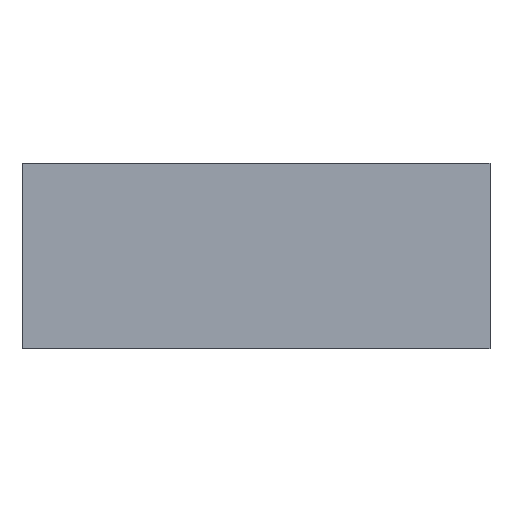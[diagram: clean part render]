
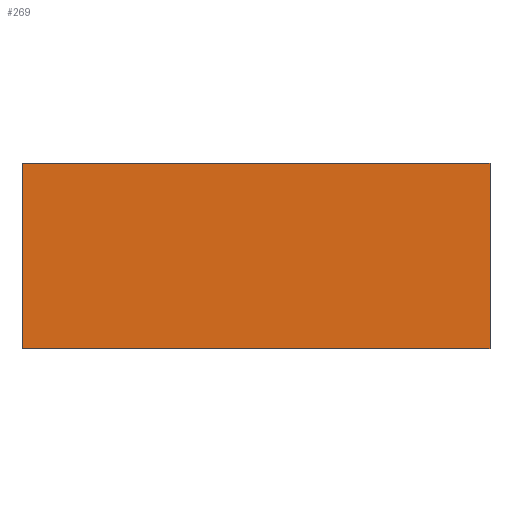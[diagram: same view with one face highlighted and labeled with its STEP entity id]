
A CAD part, front view. The second image highlights one B-rep face of the part: STEP entity #269.
In plain terms, the highlighted planar face has unit normal (0, -1, 0).
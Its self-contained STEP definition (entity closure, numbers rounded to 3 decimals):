
#34 = VECTOR ( 'NONE', #383, 1000. ) ;
#35 = LINE ( 'NONE', #382, #34 ) ;
#38 = VECTOR ( 'NONE', #379, 1000. ) ;
#43 = LINE ( 'NONE', #376, #38 ) ;
#121 = ORIENTED_EDGE ( 'NONE', *, *, #301, .T. ) ;
#122 = ORIENTED_EDGE ( 'NONE', *, *, #293, .F. ) ;
#123 = ORIENTED_EDGE ( 'NONE', *, *, #249, .F. ) ;
#132 = ORIENTED_EDGE ( 'NONE', *, *, #247, .T. ) ;
#139 = EDGE_LOOP ( 'NONE', ( #132, #123, #122, #121 ) ) ;
#158 = FACE_OUTER_BOUND ( 'NONE', #139, .T. ) ;
#190 = LINE ( 'NONE', #498, #191 ) ;
#191 = VECTOR ( 'NONE', #499, 1000. ) ;
#196 = LINE ( 'NONE', #470, #204 ) ;
#204 = VECTOR ( 'NONE', #516, 1000. ) ;
#234 = VERTEX_POINT ( 'NONE', #360 ) ;
#235 = VERTEX_POINT ( 'NONE', #361 ) ;
#238 = VERTEX_POINT ( 'NONE', #362 ) ;
#247 = EDGE_CURVE ( 'NONE', #238, #234, #43, .T. ) ;
#249 = EDGE_CURVE ( 'NONE', #235, #234, #35, .T. ) ;
#269 = ADVANCED_FACE ( 'NONE', ( #158 ), #422, .F. ) ;
#293 = EDGE_CURVE ( 'NONE', #340, #235, #190, .T. ) ;
#301 = EDGE_CURVE ( 'NONE', #340, #238, #196, .T. ) ;
#314 = AXIS2_PLACEMENT_3D ( 'NONE', #425, #431, #432 ) ;
#340 = VERTEX_POINT ( 'NONE', #519 ) ;
#360 = CARTESIAN_POINT ( 'NONE',  ( 85.5, -5.5, 49.7 ) ) ;
#361 = CARTESIAN_POINT ( 'NONE',  ( -85.5, -5.5, 49.7 ) ) ;
#362 = CARTESIAN_POINT ( 'NONE',  ( 85.5, -5.5, -17.9 ) ) ;
#376 = CARTESIAN_POINT ( 'NONE',  ( 85.5, -5.5, -17.9 ) ) ;
#379 = DIRECTION ( 'NONE',  ( 0., 0., 1. ) ) ;
#382 = CARTESIAN_POINT ( 'NONE',  ( -85.5, -5.5, 49.7 ) ) ;
#383 = DIRECTION ( 'NONE',  ( 1., 0., 0. ) ) ;
#422 = PLANE ( 'NONE',  #314 ) ;
#425 = CARTESIAN_POINT ( 'NONE',  ( -85.5, -5.5, -17.9 ) ) ;
#431 = DIRECTION ( 'NONE',  ( 0., 1., 0. ) ) ;
#432 = DIRECTION ( 'NONE',  ( 0., 0., -1. ) ) ;
#470 = CARTESIAN_POINT ( 'NONE',  ( -85.5, -5.5, -17.9 ) ) ;
#498 = CARTESIAN_POINT ( 'NONE',  ( -85.5, -5.5, -17.9 ) ) ;
#499 = DIRECTION ( 'NONE',  ( 0., 0., 1. ) ) ;
#516 = DIRECTION ( 'NONE',  ( 1., 0., 0. ) ) ;
#519 = CARTESIAN_POINT ( 'NONE',  ( -85.5, -5.5, -17.9 ) ) ;
